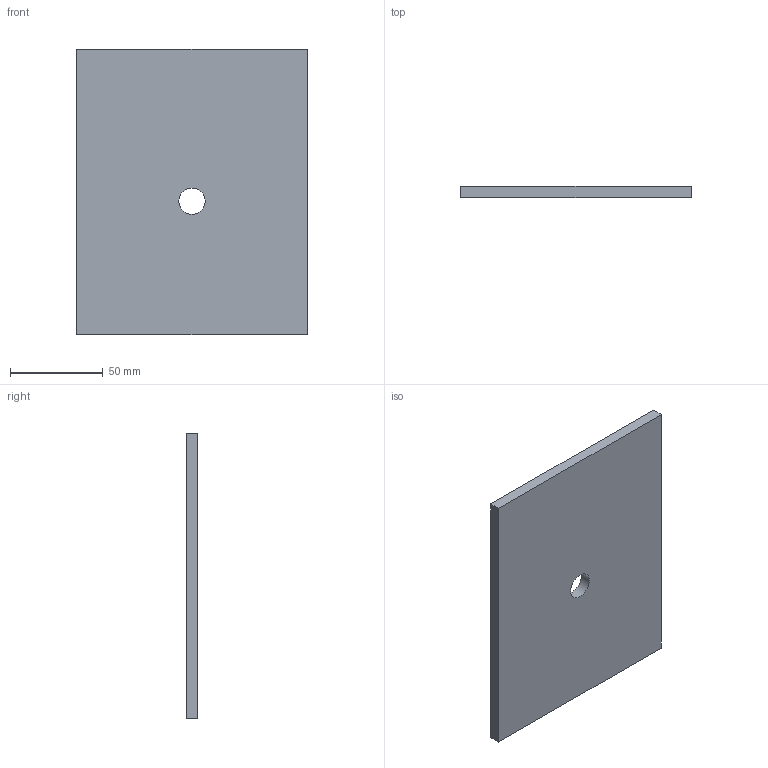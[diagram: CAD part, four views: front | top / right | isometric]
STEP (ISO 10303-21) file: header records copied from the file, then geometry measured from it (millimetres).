
FILE_DESCRIPTION(('Open CASCADE Model'),'2;1');
FILE_NAME('Open CASCADE Shape Model','2026-09-21T16:05:39',('Author'),( 'Open CASCADE'),'Open CASCADE STEP processor 7.8','Open CASCADE 7.8' ,'Unknown');
FILE_SCHEMA(('AUTOMOTIVE_DESIGN { 1 0 10303 214 1 1 1 1 }'));
Length unit declared in the file: millimetre
Products named in the file (1): Open CASCADE STEP translator 7.8 8
Bounding box: 124 x 6 x 154 mm (x, y, z)
Volume: 113625.8 mm3; surface area: 41478.9 mm2
Topology: 1 solids, 1 shells, 7 faces, 15 edges, 10 vertices
Faces by surface type: plane 6, cylinder 1
Full cylindrical faces by diameter (mm): 14.2 x1
Entity records: 400 total; most frequent: CARTESIAN_POINT 63, DIRECTION 63, LINE 41, VECTOR 41, ORIENTED_EDGE 30, PCURVE 30, DEFINITIONAL_REPRESENTATION 30, EDGE_CURVE 15
